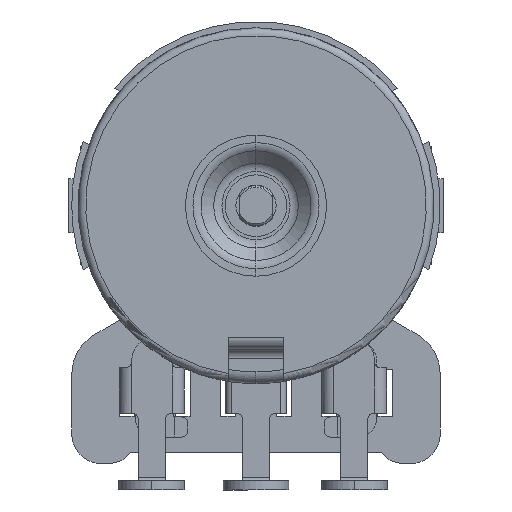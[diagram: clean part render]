
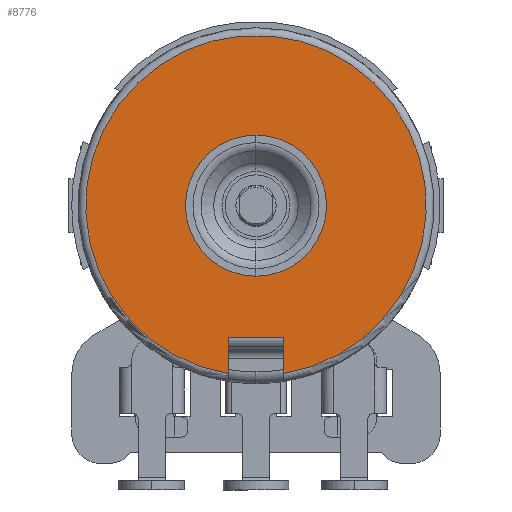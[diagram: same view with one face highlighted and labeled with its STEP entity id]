
A CAD part, front view. The second image highlights one B-rep face of the part: STEP entity #8776.
In plain terms, the highlighted planar face has unit normal (0, -1, 0).
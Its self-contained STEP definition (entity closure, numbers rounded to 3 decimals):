
#670 = PLANE ( 'NONE',  #13484 ) ;
#676 = DIRECTION ( 'NONE',  ( 0., 0., -1. ) ) ;
#794 = VECTOR ( 'NONE', #4135, 1000. ) ;
#1210 = VERTEX_POINT ( 'NONE', #3106 ) ;
#1459 = CARTESIAN_POINT ( 'NONE',  ( 0., -0.194, 3.044 ) ) ;
#1547 = VERTEX_POINT ( 'NONE', #17005 ) ;
#1874 = DIRECTION ( 'NONE',  ( 0., -1., 0. ) ) ;
#2205 = LINE ( 'NONE', #6038, #17083 ) ;
#3106 = CARTESIAN_POINT ( 'NONE',  ( -1.194, -0.194, -7.249 ) ) ;
#3704 = EDGE_CURVE ( 'NONE', #18881, #15210, #19190, .T. ) ;
#4135 = DIRECTION ( 'NONE',  ( 0., 0., -1. ) ) ;
#4730 = FACE_BOUND ( 'NONE', #19212, .T. ) ;
#5409 = AXIS2_PLACEMENT_3D ( 'NONE', #17557, #6462, #676 ) ;
#5472 = CARTESIAN_POINT ( 'NONE',  ( 0., -0.194, 0. ) ) ;
#5714 = EDGE_CURVE ( 'NONE', #6996, #14719, #2205, .T. ) ;
#5797 = CIRCLE ( 'NONE', #5409, 3.044 ) ;
#6038 = CARTESIAN_POINT ( 'NONE',  ( -3.044, -0.194, -5.695 ) ) ;
#6278 = DIRECTION ( 'NONE',  ( 1., 0., 0. ) ) ;
#6279 = DIRECTION ( 'NONE',  ( 0., 0., -1. ) ) ;
#6462 = DIRECTION ( 'NONE',  ( 0., -1., 0. ) ) ;
#6996 = VERTEX_POINT ( 'NONE', #21195 ) ;
#7188 = EDGE_CURVE ( 'NONE', #6996, #1210, #24409, .T. ) ;
#7322 = DIRECTION ( 'NONE',  ( 0., 0., -1. ) ) ;
#7515 = DIRECTION ( 'NONE',  ( 0., 0., -1. ) ) ;
#8202 = DIRECTION ( 'NONE',  ( 0., 0., 1. ) ) ;
#8552 = AXIS2_PLACEMENT_3D ( 'NONE', #21307, #23167, #6279 ) ;
#8748 = ORIENTED_EDGE ( 'NONE', *, *, #3704, .F. ) ;
#8776 = ADVANCED_FACE ( 'NONE', ( #4730, #15710 ), #670, .F. ) ;
#8881 = AXIS2_PLACEMENT_3D ( 'NONE', #5472, #1874, #7322 ) ;
#9523 = CARTESIAN_POINT ( 'NONE',  ( 0., -0.194, -3.044 ) ) ;
#11198 = EDGE_CURVE ( 'NONE', #1547, #1210, #11642, .T. ) ;
#11267 = CARTESIAN_POINT ( 'NONE',  ( 1.194, -0.194, -5.695 ) ) ;
#11642 = CIRCLE ( 'NONE', #8881, 7.347 ) ;
#11830 = ORIENTED_EDGE ( 'NONE', *, *, #11198, .T. ) ;
#13484 = AXIS2_PLACEMENT_3D ( 'NONE', #19408, #19529, #8202 ) ;
#14113 = ORIENTED_EDGE ( 'NONE', *, *, #5714, .T. ) ;
#14719 = VERTEX_POINT ( 'NONE', #11267 ) ;
#15031 = ORIENTED_EDGE ( 'NONE', *, *, #16385, .F. ) ;
#15210 = VERTEX_POINT ( 'NONE', #1459 ) ;
#15570 = ORIENTED_EDGE ( 'NONE', *, *, #7188, .F. ) ;
#15710 = FACE_OUTER_BOUND ( 'NONE', #21560, .T. ) ;
#15824 = CARTESIAN_POINT ( 'NONE',  ( 1.194, -0.194, 0. ) ) ;
#16385 = EDGE_CURVE ( 'NONE', #15210, #18881, #5797, .T. ) ;
#17005 = CARTESIAN_POINT ( 'NONE',  ( 1.194, -0.194, -7.249 ) ) ;
#17083 = VECTOR ( 'NONE', #6278, 1000. ) ;
#17273 = ORIENTED_EDGE ( 'NONE', *, *, #22316, .T. ) ;
#17557 = CARTESIAN_POINT ( 'NONE',  ( 0., -0.194, 0. ) ) ;
#18881 = VERTEX_POINT ( 'NONE', #9523 ) ;
#19077 = CARTESIAN_POINT ( 'NONE',  ( -1.194, -0.194, -6.203 ) ) ;
#19190 = CIRCLE ( 'NONE', #8552, 3.044 ) ;
#19212 = EDGE_LOOP ( 'NONE', ( #8748, #15031 ) ) ;
#19408 = CARTESIAN_POINT ( 'NONE',  ( -3.044, -0.194, 0. ) ) ;
#19529 = DIRECTION ( 'NONE',  ( 0., 1., 0. ) ) ;
#21195 = CARTESIAN_POINT ( 'NONE',  ( -1.194, -0.194, -5.695 ) ) ;
#21307 = CARTESIAN_POINT ( 'NONE',  ( 0., -0.194, 0. ) ) ;
#21560 = EDGE_LOOP ( 'NONE', ( #15570, #14113, #17273, #11830 ) ) ;
#22316 = EDGE_CURVE ( 'NONE', #14719, #1547, #22994, .T. ) ;
#22994 = LINE ( 'NONE', #15824, #794 ) ;
#23167 = DIRECTION ( 'NONE',  ( 0., -1., 0. ) ) ;
#23630 = VECTOR ( 'NONE', #7515, 1000. ) ;
#24409 = LINE ( 'NONE', #19077, #23630 ) ;
